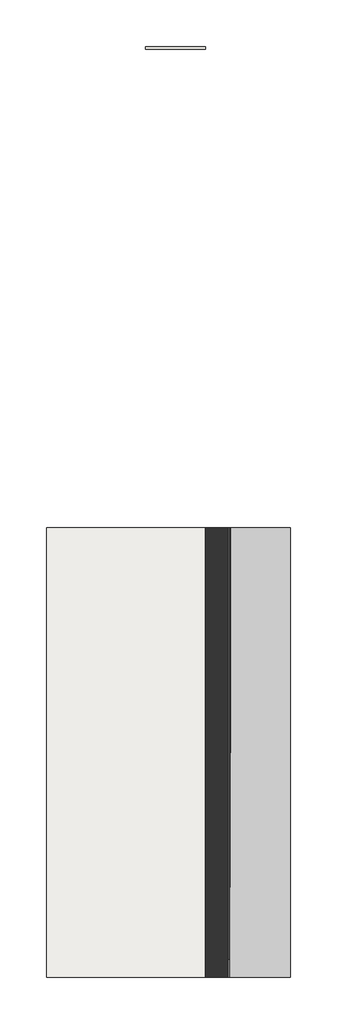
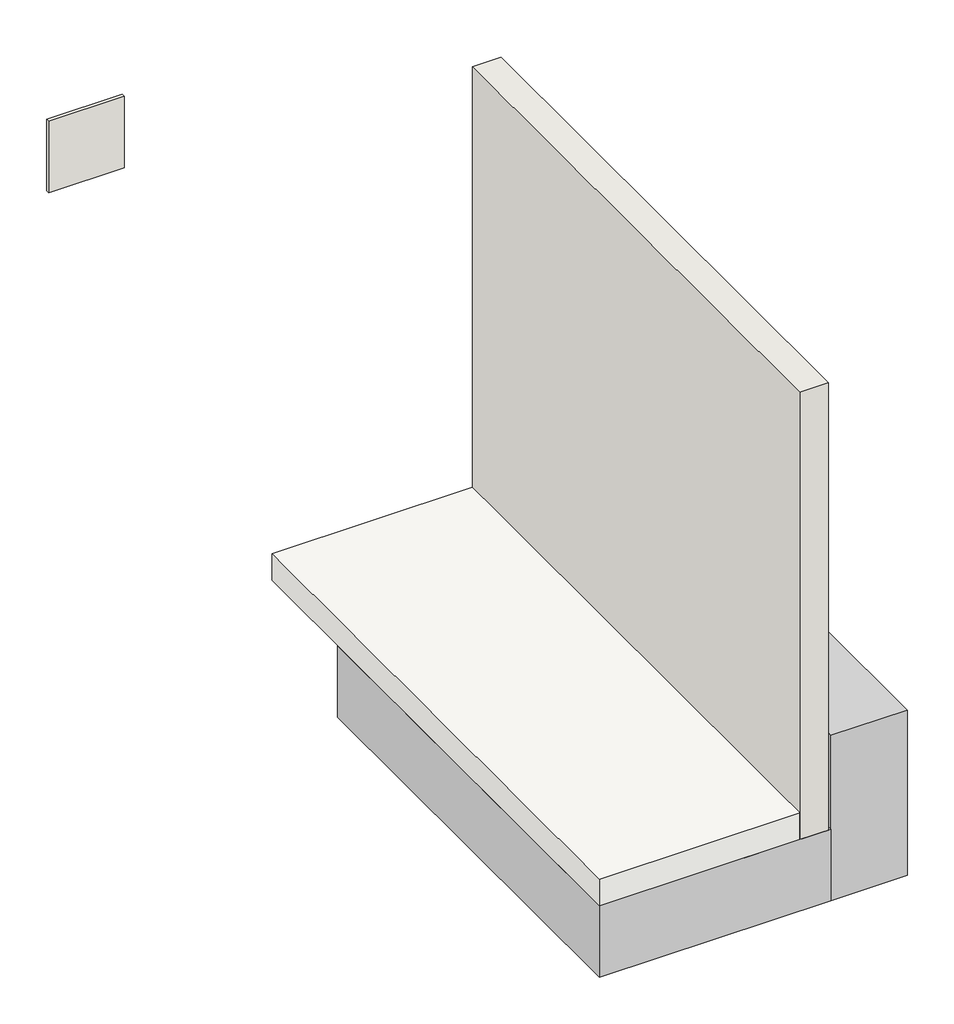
# One storey: 2 walls, 1 proxy, 1 slab.
"""IFC4 building model written with IfcOpenShell, lengths in millimetres."""

from ifc_helpers import new_model, si_unit, frame, origin, place, context, project, spatial, polyline, outline, extrude, transform, mapped, element, save
from components import generic_models_f4a1198a

model = new_model("IFC4")

# Units and contexts
model_context = context("Model", 3, world=origin())
ifc_project = project(units=[si_unit("LENGTHUNIT", "METRE", prefix="MILLI")], contexts=[model_context])

# Site, building, storey
site = spatial("IfcSite", under=ifc_project)
building = spatial("IfcBuilding", under=site)
storey = spatial("IfcBuildingStorey", under=building, Name="ARQ Térreo", Elevation=-2.523798)

# Proxy
placement = place(None, origin())
generic_models_shape = generic_models_f4a1198a(model_context)
element("IfcBuildingElementProxy", 1, Name="IMPER:IMPER:433934 : IMPER:IMPER:433934", ObjectType="IMPER:IMPER:433934 : IMPER:IMPER:433934", at=placement, inside=storey, context=model_context, shape_type="MappedRepresentation", body=[
    mapped(generic_models_shape, transform((0.0, 0.0, 0.0), x_axis=(1.0, 0.0, 0.0), y_axis=(0.0, 1.0, 0.0), z_axis=(0.0, 0.0, 1.0))),
])

# Slab
element("IfcSlab", 2, ObjectType="Genérico 150 mm", at=placement, inside=storey, context=model_context, shape_type="SweptSolid", body=[
    extrude(outline(polyline([(-1562.7804486, 145.8700195), (-501.9704105, 145.8700195), (-501.9704105, -2854.1299805), (-1562.7804486, -2854.1299805), (-1562.7804486, 145.8700195)])), frame((0.0, 0.0, -2.523798), z_axis=(0.0, 0.0, 1.0), x_axis=(1.0, 0.0, 0.0)), (0.0, 0.0, 1.0), 150.0),
])

# Walls
element("IfcWall", 3, ObjectType="Parede básica:Parede Concreto", at=placement, inside=storey, context=model_context, shape_type="SweptSolid", body=[
    extrude(outline(polyline([(-501.9704105, -2854.1299805), (-501.9704105, 145.8700195), (-351.9704105, 145.8700195), (-351.9704105, -2854.1299805), (-501.9704105, -2854.1299805)])), frame((0.0, 0.0, -2.523798), z_axis=(0.0, 0.0, 1.0), x_axis=(1.0, 0.0, 0.0)), (0.0, 0.0, 1.0), 2500.0),
])
element("IfcWall", 4, ObjectType="IMPV_CLASSIC", at=placement, inside=storey, context=model_context, shape_type="SweptSolid", body=[
    extrude(outline(polyline([(-901.9704105, 3355.3700195), (-501.9704105, 3355.3700195), (-501.9704105, 3336.3700195), (-901.9704105, 3336.3700195), (-901.9704105, 3355.3700195)])), frame((0.0, 0.0, -2.523798), z_axis=(0.0, 0.0, 1.0), x_axis=(1.0, 0.0, 0.0)), (0.0, 0.0, 1.0), 400.0),
])

save(model, "model.ifc")
